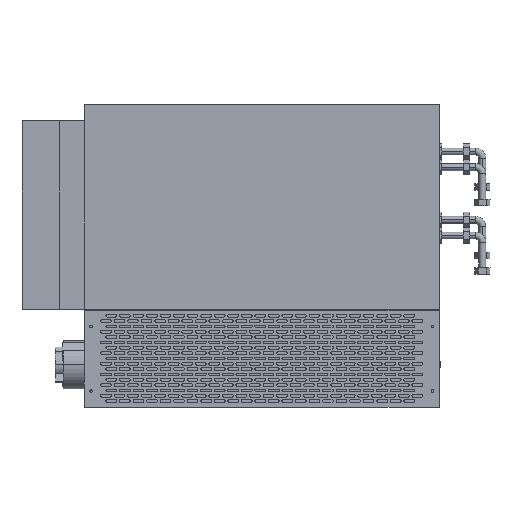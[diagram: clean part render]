
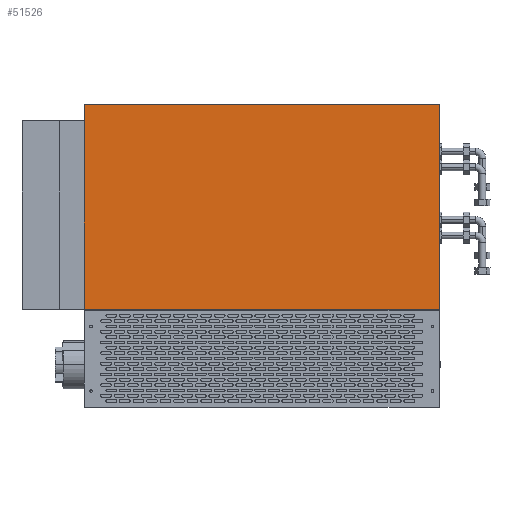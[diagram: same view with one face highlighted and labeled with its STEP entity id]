
A CAD part, top view. The second image highlights one B-rep face of the part: STEP entity #51526.
In plain terms, the highlighted planar face has unit normal (0, 0, 1).
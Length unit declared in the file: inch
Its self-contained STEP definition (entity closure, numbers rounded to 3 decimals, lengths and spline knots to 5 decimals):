
#2857 = LINE ( 'NONE', #104010, #72729 ) ;
#4356 = DIRECTION ( 'NONE',  ( 1., 0., 0. ) ) ;
#5114 = EDGE_CURVE ( 'NONE', #80239, #9388, #2857, .T. ) ;
#6306 = DIRECTION ( 'NONE',  ( 0., -1., 0. ) ) ;
#9388 = VERTEX_POINT ( 'NONE', #53906 ) ;
#20785 = EDGE_LOOP ( 'NONE', ( #36605, #35645, #43078, #92928 ) ) ;
#22779 = PLANE ( 'NONE',  #88662 ) ;
#24962 = CARTESIAN_POINT ( 'NONE',  ( 12.96875, 22.125, 2.5625 ) ) ;
#26863 = VECTOR ( 'NONE', #33016, 39.37008 ) ;
#31022 = EDGE_CURVE ( 'NONE', #64047, #80239, #106358, .T. ) ;
#33016 = DIRECTION ( 'NONE',  ( 0., -1., 0. ) ) ;
#35645 = ORIENTED_EDGE ( 'NONE', *, *, #5114, .F. ) ;
#36605 = ORIENTED_EDGE ( 'NONE', *, *, #104419, .T. ) ;
#40348 = CARTESIAN_POINT ( 'NONE',  ( 12.96875, 7.164, 2.5625 ) ) ;
#43078 = ORIENTED_EDGE ( 'NONE', *, *, #31022, .F. ) ;
#47501 = CARTESIAN_POINT ( 'NONE',  ( -12.96875, 22.125, 2.5625 ) ) ;
#51526 = ADVANCED_FACE ( 'NONE', ( #54633 ), #22779, .F. ) ;
#53906 = CARTESIAN_POINT ( 'NONE',  ( -12.96875, 7.164, 2.5625 ) ) ;
#54633 = FACE_OUTER_BOUND ( 'NONE', #20785, .T. ) ;
#55189 = DIRECTION ( 'NONE',  ( 0., 0., -1. ) ) ;
#62224 = DIRECTION ( 'NONE',  ( -1., 0., 0. ) ) ;
#64047 = VERTEX_POINT ( 'NONE', #88270 ) ;
#65421 = VECTOR ( 'NONE', #4356, 39.37008 ) ;
#66753 = VECTOR ( 'NONE', #6306, 39.37008 ) ;
#69227 = VERTEX_POINT ( 'NONE', #74640 ) ;
#72729 = VECTOR ( 'NONE', #62224, 39.37008 ) ;
#72795 = DIRECTION ( 'NONE',  ( -1., 0., 0. ) ) ;
#74273 = CARTESIAN_POINT ( 'NONE',  ( -12.96875, 22.125, 2.5625 ) ) ;
#74640 = CARTESIAN_POINT ( 'NONE',  ( -12.96875, 22.125, 2.5625 ) ) ;
#79696 = CARTESIAN_POINT ( 'NONE',  ( -12.96875, 22.125, 2.5625 ) ) ;
#80239 = VERTEX_POINT ( 'NONE', #40348 ) ;
#86404 = EDGE_CURVE ( 'NONE', #69227, #64047, #87950, .T. ) ;
#87950 = LINE ( 'NONE', #79696, #65421 ) ;
#88270 = CARTESIAN_POINT ( 'NONE',  ( 12.96875, 22.125, 2.5625 ) ) ;
#88662 = AXIS2_PLACEMENT_3D ( 'NONE', #47501, #55189, #72795 ) ;
#92928 = ORIENTED_EDGE ( 'NONE', *, *, #86404, .F. ) ;
#99019 = LINE ( 'NONE', #74273, #26863 ) ;
#104010 = CARTESIAN_POINT ( 'NONE',  ( -12.96875, 7.164, 2.5625 ) ) ;
#104419 = EDGE_CURVE ( 'NONE', #69227, #9388, #99019, .T. ) ;
#106358 = LINE ( 'NONE', #24962, #66753 ) ;
